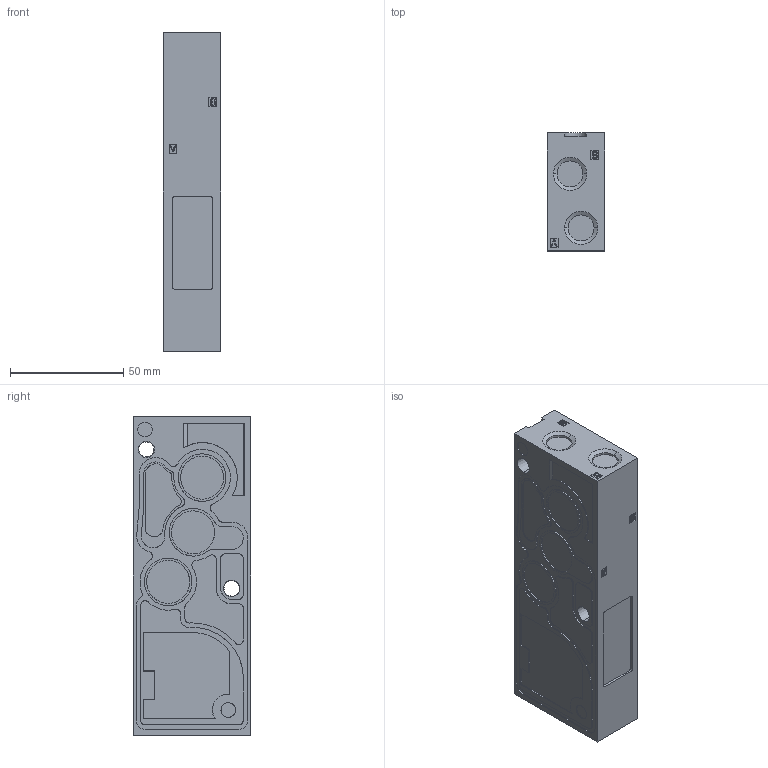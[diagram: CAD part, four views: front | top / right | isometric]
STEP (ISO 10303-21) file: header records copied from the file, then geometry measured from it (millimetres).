
FILE_DESCRIPTION (( 'STEP AP214' ), '1' );
FILE_NAME ('92A-000-B1K.STEP', '2019-08-09T13:13:10', ( '' ), ( '' ), 'SwSTEP 2.0', 'SolidWorks 2014', '' );
FILE_SCHEMA (( 'AUTOMOTIVE_DESIGN' ));
Length unit declared in the file: inch
Products named in the file (2): 92A-000-B1K; 92-BASE-B1J
Assembly tree (1 placements, depth 2):
  92A-000-B1K
    92-BASE-B1J
Bounding box: 25.5 x 52 x 141 mm (x, y, z)
Volume: 178594.8 mm3; surface area: 27682.6 mm2
Topology: 1 solids, 1 shells, 500 faces, 1311 edges, 869 vertices
Faces by surface type: plane 261, cylinder 146, cone 53, bspline 40
Entity records: 27498 total; most frequent: CARTESIAN_POINT 9032, ORIENTED_EDGE 2622, DIRECTION 2198, EDGE_CURVE 1311, VERTEX_POINT 869, VECTOR 798, LINE 798, AXIS2_PLACEMENT_3D 700
